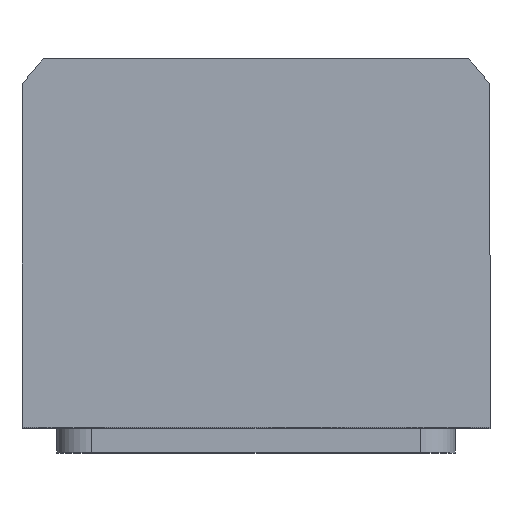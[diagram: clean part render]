
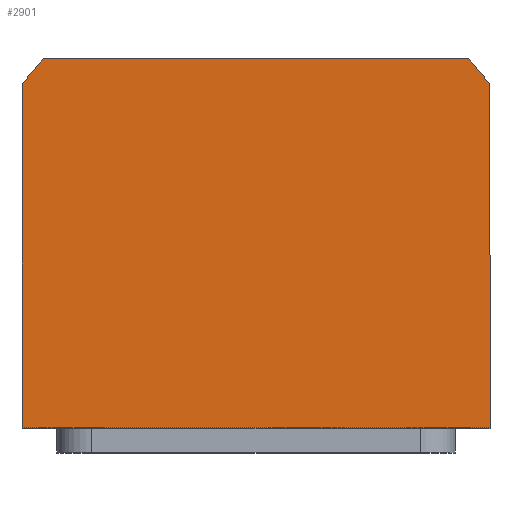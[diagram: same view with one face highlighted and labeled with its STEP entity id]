
A CAD part, top view. The second image highlights one B-rep face of the part: STEP entity #2901.
In plain terms, the highlighted planar face has unit normal (0, 0, 1).
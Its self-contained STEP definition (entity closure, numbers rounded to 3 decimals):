
#151 = VECTOR ( 'NONE', #3866, 1000. ) ;
#155 = CARTESIAN_POINT ( 'NONE',  ( -42.688, 40., 70. ) ) ;
#168 = CARTESIAN_POINT ( 'NONE',  ( 0., 0., 70. ) ) ;
#460 = DIRECTION ( 'NONE',  ( 1., 0., 0. ) ) ;
#489 = CARTESIAN_POINT ( 'NONE',  ( -47., -34., 70. ) ) ;
#940 = VECTOR ( 'NONE', #6280, 1000. ) ;
#980 = DIRECTION ( 'NONE',  ( 0., 0., 1. ) ) ;
#1281 = LINE ( 'NONE', #10032, #2217 ) ;
#1284 = EDGE_CURVE ( 'NONE', #8620, #10222, #1281, .T. ) ;
#1388 = ORIENTED_EDGE ( 'NONE', *, *, #5821, .T. ) ;
#1678 = CARTESIAN_POINT ( 'NONE',  ( -42.688, 40., 70. ) ) ;
#1952 = CIRCLE ( 'NONE', #7439, 58.5 ) ;
#1964 = CARTESIAN_POINT ( 'NONE',  ( 42.688, 40., 70. ) ) ;
#2068 = ORIENTED_EDGE ( 'NONE', *, *, #10105, .T. ) ;
#2198 = CARTESIAN_POINT ( 'NONE',  ( 0., 0., 70. ) ) ;
#2217 = VECTOR ( 'NONE', #4911, 1000. ) ;
#2538 = LINE ( 'NONE', #155, #940 ) ;
#2885 = LINE ( 'NONE', #7189, #9185 ) ;
#2901 = ADVANCED_FACE ( 'NONE', ( #9314 ), #7298, .T. ) ;
#3454 = ORIENTED_EDGE ( 'NONE', *, *, #4224, .T. ) ;
#3798 = DIRECTION ( 'NONE',  ( 0., 0., 1. ) ) ;
#3859 = CIRCLE ( 'NONE', #9101, 58.5 ) ;
#3866 = DIRECTION ( 'NONE',  ( 0., -1., 0. ) ) ;
#3977 = CARTESIAN_POINT ( 'NONE',  ( -47., -34., 70. ) ) ;
#4224 = EDGE_CURVE ( 'NONE', #10222, #9740, #1952, .T. ) ;
#4499 = ORIENTED_EDGE ( 'NONE', *, *, #5508, .T. ) ;
#4641 = DIRECTION ( 'NONE',  ( 0., 0., 1. ) ) ;
#4655 = CARTESIAN_POINT ( 'NONE',  ( 47., -34., 70. ) ) ;
#4829 = EDGE_CURVE ( 'NONE', #5428, #4842, #9368, .T. ) ;
#4842 = VERTEX_POINT ( 'NONE', #3977 ) ;
#4911 = DIRECTION ( 'NONE',  ( 0., 1., 0. ) ) ;
#5428 = VERTEX_POINT ( 'NONE', #9540 ) ;
#5508 = EDGE_CURVE ( 'NONE', #9740, #10467, #2538, .T. ) ;
#5594 = CARTESIAN_POINT ( 'NONE',  ( 0., 0., 70. ) ) ;
#5821 = EDGE_CURVE ( 'NONE', #10467, #5428, #3859, .T. ) ;
#5976 = ORIENTED_EDGE ( 'NONE', *, *, #1284, .T. ) ;
#6158 = DIRECTION ( 'NONE',  ( 1., 0., 0. ) ) ;
#6280 = DIRECTION ( 'NONE',  ( -1., 0., 0. ) ) ;
#7189 = CARTESIAN_POINT ( 'NONE',  ( 47., -34., 70. ) ) ;
#7298 = PLANE ( 'NONE',  #9388 ) ;
#7439 = AXIS2_PLACEMENT_3D ( 'NONE', #168, #980, #6158 ) ;
#8064 = DIRECTION ( 'NONE',  ( 1., 0., 0. ) ) ;
#8181 = DIRECTION ( 'NONE',  ( 1., 0., 0. ) ) ;
#8224 = EDGE_LOOP ( 'NONE', ( #2068, #5976, #3454, #4499, #1388, #10070 ) ) ;
#8620 = VERTEX_POINT ( 'NONE', #4655 ) ;
#9101 = AXIS2_PLACEMENT_3D ( 'NONE', #5594, #3798, #460 ) ;
#9161 = CARTESIAN_POINT ( 'NONE',  ( 47., 34.832, 70. ) ) ;
#9185 = VECTOR ( 'NONE', #8064, 1000. ) ;
#9314 = FACE_OUTER_BOUND ( 'NONE', #8224, .T. ) ;
#9368 = LINE ( 'NONE', #489, #151 ) ;
#9388 = AXIS2_PLACEMENT_3D ( 'NONE', #2198, #4641, #8181 ) ;
#9540 = CARTESIAN_POINT ( 'NONE',  ( -47., 34.832, 70. ) ) ;
#9740 = VERTEX_POINT ( 'NONE', #1964 ) ;
#10032 = CARTESIAN_POINT ( 'NONE',  ( 47., 34.832, 70. ) ) ;
#10070 = ORIENTED_EDGE ( 'NONE', *, *, #4829, .T. ) ;
#10105 = EDGE_CURVE ( 'NONE', #4842, #8620, #2885, .T. ) ;
#10222 = VERTEX_POINT ( 'NONE', #9161 ) ;
#10467 = VERTEX_POINT ( 'NONE', #1678 ) ;
